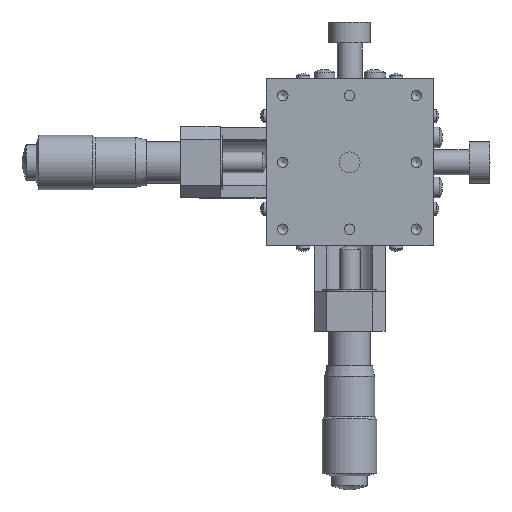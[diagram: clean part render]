
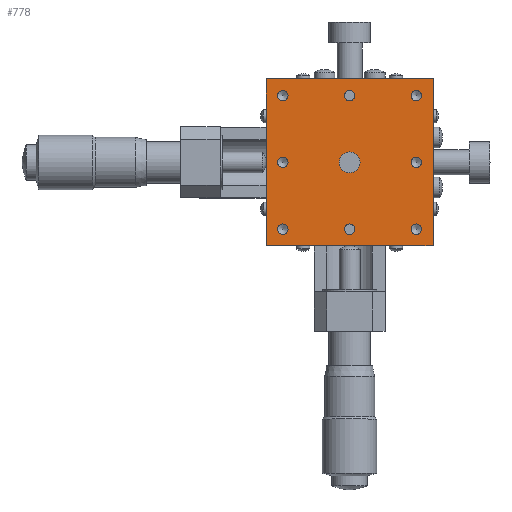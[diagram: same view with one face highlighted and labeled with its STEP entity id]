
A CAD part, top view. The second image highlights one B-rep face of the part: STEP entity #778.
In plain terms, the highlighted planar face has unit normal (0, 0, 1).
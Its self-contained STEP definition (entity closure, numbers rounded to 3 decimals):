
#778 = ADVANCED_FACE( '', ( #1657, #1658, #1659, #1660, #1661, #1662, #1663, #1664, #1665, #1666 ), #1667, .T. );
#1657 = FACE_BOUND( '', #2574, .T. );
#1658 = FACE_BOUND( '', #2575, .T. );
#1659 = FACE_BOUND( '', #2576, .T. );
#1660 = FACE_BOUND( '', #2577, .T. );
#1661 = FACE_BOUND( '', #2578, .T. );
#1662 = FACE_BOUND( '', #2579, .T. );
#1663 = FACE_BOUND( '', #2580, .T. );
#1664 = FACE_BOUND( '', #2581, .T. );
#1665 = FACE_OUTER_BOUND( '', #2582, .T. );
#1666 = FACE_BOUND( '', #2583, .T. );
#1667 = PLANE( '', #2584 );
#2574 = EDGE_LOOP( '', ( #4542 ) );
#2575 = EDGE_LOOP( '', ( #4543 ) );
#2576 = EDGE_LOOP( '', ( #4544 ) );
#2577 = EDGE_LOOP( '', ( #4545 ) );
#2578 = EDGE_LOOP( '', ( #4546 ) );
#2579 = EDGE_LOOP( '', ( #4547 ) );
#2580 = EDGE_LOOP( '', ( #4548 ) );
#2581 = EDGE_LOOP( '', ( #4549 ) );
#2582 = EDGE_LOOP( '', ( #4550, #4551, #4552, #4553 ) );
#2583 = EDGE_LOOP( '', ( #4554 ) );
#2584 = AXIS2_PLACEMENT_3D( '', #4555, #4556, #4557 );
#4542 = ORIENTED_EDGE( '', *, *, #5487, .T. );
#4543 = ORIENTED_EDGE( '', *, *, #5017, .T. );
#4544 = ORIENTED_EDGE( '', *, *, #4975, .T. );
#4545 = ORIENTED_EDGE( '', *, *, #5414, .T. );
#4546 = ORIENTED_EDGE( '', *, *, #5323, .T. );
#4547 = ORIENTED_EDGE( '', *, *, #5267, .T. );
#4548 = ORIENTED_EDGE( '', *, *, #5245, .T. );
#4549 = ORIENTED_EDGE( '', *, *, #5046, .T. );
#4550 = ORIENTED_EDGE( '', *, *, #5330, .T. );
#4551 = ORIENTED_EDGE( '', *, *, #5488, .T. );
#4552 = ORIENTED_EDGE( '', *, *, #5489, .T. );
#4553 = ORIENTED_EDGE( '', *, *, #5301, .T. );
#4554 = ORIENTED_EDGE( '', *, *, #5153, .T. );
#4555 = CARTESIAN_POINT( '', ( 0., 0., 22. ) );
#4556 = DIRECTION( '', ( 0., 0., 1. ) );
#4557 = DIRECTION( '', ( -1., 0., 0. ) );
#4975 = EDGE_CURVE( '', #5930, #5930, #5931, .T. );
#5017 = EDGE_CURVE( '', #5998, #5998, #5999, .T. );
#5046 = EDGE_CURVE( '', #6042, #6042, #6043, .T. );
#5153 = EDGE_CURVE( '', #6210, #6210, #6211, .T. );
#5245 = EDGE_CURVE( '', #6338, #6338, #6339, .T. );
#5267 = EDGE_CURVE( '', #6367, #6367, #6368, .T. );
#5301 = EDGE_CURVE( '', #6411, #6409, #6412, .T. );
#5323 = EDGE_CURVE( '', #6445, #6445, #6446, .T. );
#5330 = EDGE_CURVE( '', #6409, #6454, #6455, .T. );
#5414 = EDGE_CURVE( '', #6562, #6562, #6563, .T. );
#5487 = EDGE_CURVE( '', #6643, #6643, #6644, .T. );
#5488 = EDGE_CURVE( '', #6454, #6645, #6646, .T. );
#5489 = EDGE_CURVE( '', #6645, #6411, #6647, .T. );
#5930 = VERTEX_POINT( '', #7219 );
#5931 = CIRCLE( '', #7220, 1.25 );
#5998 = VERTEX_POINT( '', #7308 );
#5999 = CIRCLE( '', #7309, 1.25 );
#6042 = VERTEX_POINT( '', #7368 );
#6043 = CIRCLE( '', #7369, 1.25 );
#6210 = VERTEX_POINT( '', #7597 );
#6211 = CIRCLE( '', #7598, 2.5 );
#6338 = VERTEX_POINT( '', #7757 );
#6339 = CIRCLE( '', #7758, 1.25 );
#6367 = VERTEX_POINT( '', #7796 );
#6368 = CIRCLE( '', #7797, 1.25 );
#6409 = VERTEX_POINT( '', #7851 );
#6411 = VERTEX_POINT( '', #7854 );
#6412 = LINE( '', #7855, #7856 );
#6445 = VERTEX_POINT( '', #7899 );
#6446 = CIRCLE( '', #7900, 1.25 );
#6454 = VERTEX_POINT( '', #7908 );
#6455 = LINE( '', #7909, #7910 );
#6562 = VERTEX_POINT( '', #8051 );
#6563 = CIRCLE( '', #8052, 1.25 );
#6643 = VERTEX_POINT( '', #8146 );
#6644 = CIRCLE( '', #8147, 1.25 );
#6645 = VERTEX_POINT( '', #8148 );
#6646 = LINE( '', #8149, #8150 );
#6647 = LINE( '', #8151, #8152 );
#7219 = CARTESIAN_POINT( '', ( 0., 14.75, 22. ) );
#7220 = AXIS2_PLACEMENT_3D( '', #8492, #8493, #8494 );
#7308 = CARTESIAN_POINT( '', ( -16., 14.75, 22. ) );
#7309 = AXIS2_PLACEMENT_3D( '', #8555, #8556, #8557 );
#7368 = CARTESIAN_POINT( '', ( -16., -17.25, 22. ) );
#7369 = AXIS2_PLACEMENT_3D( '', #8586, #8587, #8588 );
#7597 = CARTESIAN_POINT( '', ( 0., 2.5, 22. ) );
#7598 = AXIS2_PLACEMENT_3D( '', #8716, #8717, #8718 );
#7757 = CARTESIAN_POINT( '', ( 0., -17.25, 22. ) );
#7758 = AXIS2_PLACEMENT_3D( '', #8838, #8839, #8840 );
#7796 = CARTESIAN_POINT( '', ( 16., -17.25, 22. ) );
#7797 = AXIS2_PLACEMENT_3D( '', #8857, #8858, #8859 );
#7851 = CARTESIAN_POINT( '', ( 20., -20., 22. ) );
#7854 = CARTESIAN_POINT( '', ( -20., -20., 22. ) );
#7855 = CARTESIAN_POINT( '', ( 0., -20., 22. ) );
#7856 = VECTOR( '', #8895, 1000. );
#7899 = CARTESIAN_POINT( '', ( 16., -1.25, 22. ) );
#7900 = AXIS2_PLACEMENT_3D( '', #8921, #8922, #8923 );
#7908 = CARTESIAN_POINT( '', ( 20., 20., 22. ) );
#7909 = CARTESIAN_POINT( '', ( 20., 0., 22. ) );
#7910 = VECTOR( '', #8927, 1000. );
#8051 = CARTESIAN_POINT( '', ( 16., 14.75, 22. ) );
#8052 = AXIS2_PLACEMENT_3D( '', #9007, #9008, #9009 );
#8146 = CARTESIAN_POINT( '', ( -16., -1.25, 22. ) );
#8147 = AXIS2_PLACEMENT_3D( '', #9057, #9058, #9059 );
#8148 = CARTESIAN_POINT( '', ( -20., 20., 22. ) );
#8149 = CARTESIAN_POINT( '', ( 0., 20., 22. ) );
#8150 = VECTOR( '', #9060, 1000. );
#8151 = CARTESIAN_POINT( '', ( -20., 0., 22. ) );
#8152 = VECTOR( '', #9061, 1000. );
#8492 = CARTESIAN_POINT( '', ( 0., 16., 22. ) );
#8493 = DIRECTION( '', ( 0., 0., -1. ) );
#8494 = DIRECTION( '', ( 0., -1., 0. ) );
#8555 = CARTESIAN_POINT( '', ( -16., 16., 22. ) );
#8556 = DIRECTION( '', ( 0., 0., -1. ) );
#8557 = DIRECTION( '', ( 0., -1., 0. ) );
#8586 = CARTESIAN_POINT( '', ( -16., -16., 22. ) );
#8587 = DIRECTION( '', ( 0., 0., -1. ) );
#8588 = DIRECTION( '', ( 0., -1., 0. ) );
#8716 = CARTESIAN_POINT( '', ( 0., 0., 22. ) );
#8717 = DIRECTION( '', ( 0., 0., -1. ) );
#8718 = DIRECTION( '', ( 0., 1., 0. ) );
#8838 = CARTESIAN_POINT( '', ( 0., -16., 22. ) );
#8839 = DIRECTION( '', ( 0., 0., -1. ) );
#8840 = DIRECTION( '', ( 0., -1., 0. ) );
#8857 = CARTESIAN_POINT( '', ( 16., -16., 22. ) );
#8858 = DIRECTION( '', ( 0., 0., -1. ) );
#8859 = DIRECTION( '', ( 0., -1., 0. ) );
#8895 = DIRECTION( '', ( 1., 0., 0. ) );
#8921 = CARTESIAN_POINT( '', ( 16., 0., 22. ) );
#8922 = DIRECTION( '', ( 0., 0., -1. ) );
#8923 = DIRECTION( '', ( 0., -1., 0. ) );
#8927 = DIRECTION( '', ( 0., 1., 0. ) );
#9007 = CARTESIAN_POINT( '', ( 16., 16., 22. ) );
#9008 = DIRECTION( '', ( 0., 0., -1. ) );
#9009 = DIRECTION( '', ( 0., -1., 0. ) );
#9057 = CARTESIAN_POINT( '', ( -16., 0., 22. ) );
#9058 = DIRECTION( '', ( 0., 0., -1. ) );
#9059 = DIRECTION( '', ( 0., -1., 0. ) );
#9060 = DIRECTION( '', ( -1., 0., 0. ) );
#9061 = DIRECTION( '', ( 0., -1., 0. ) );
